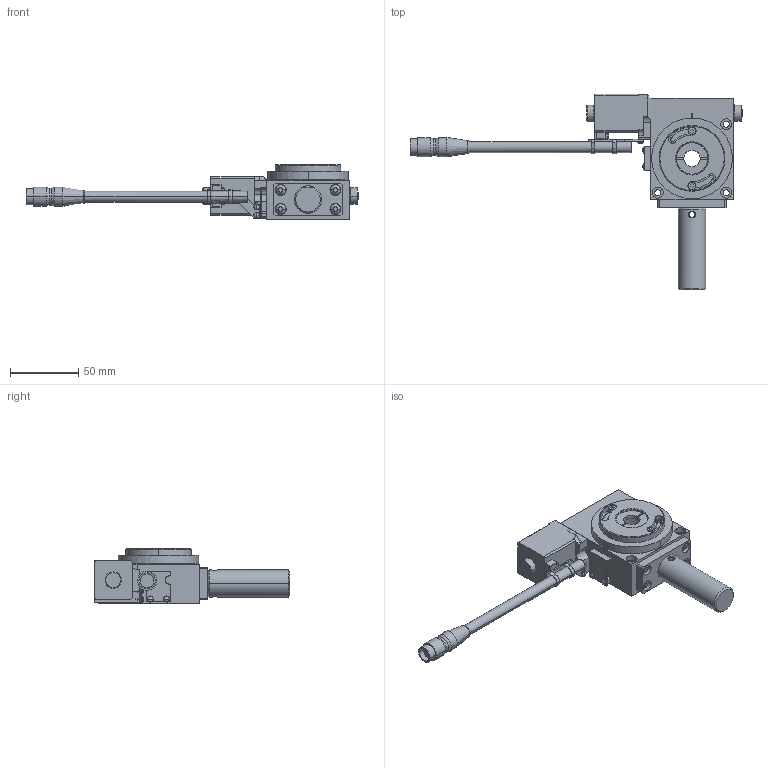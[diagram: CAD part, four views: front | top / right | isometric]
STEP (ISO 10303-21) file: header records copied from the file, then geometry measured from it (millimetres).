
FILE_DESCRIPTION(('STEP AP203'),'1');
FILE_NAME('C:\3D-trans/3D_FPW06360C-1+240902.step','2024-09-02T05:33:05',(' '),(' '),'Spatial InterOp 3D',' ',' ');
FILE_SCHEMA(('CONFIG_CONTROL_DESIGN'));
Length unit declared in the file: millimetre
Products named in the file (14): 1; 2; 3; 4; 5; 6; 7; 8; 9; 10; 11; 12; 13; 14
Bounding box: 242.5 x 143 x 40 mm (x, y, z)
Volume: 199634.7 mm3; surface area: 60531.4 mm2
Topology: 14 solids, 14 shells, 551 faces, 1360 edges, 868 vertices
Faces by surface type: plane 235, cylinder 218, cone 68, sphere 16, torus 10, bspline 4
Entity records: 17431 total; most frequent: CARTESIAN_POINT 3289, DIRECTION 2999, ORIENTED_EDGE 2688, EDGE_CURVE 1344, AXIS2_PLACEMENT_3D 1126, VERTEX_POINT 868, LINE 747, VECTOR 747
